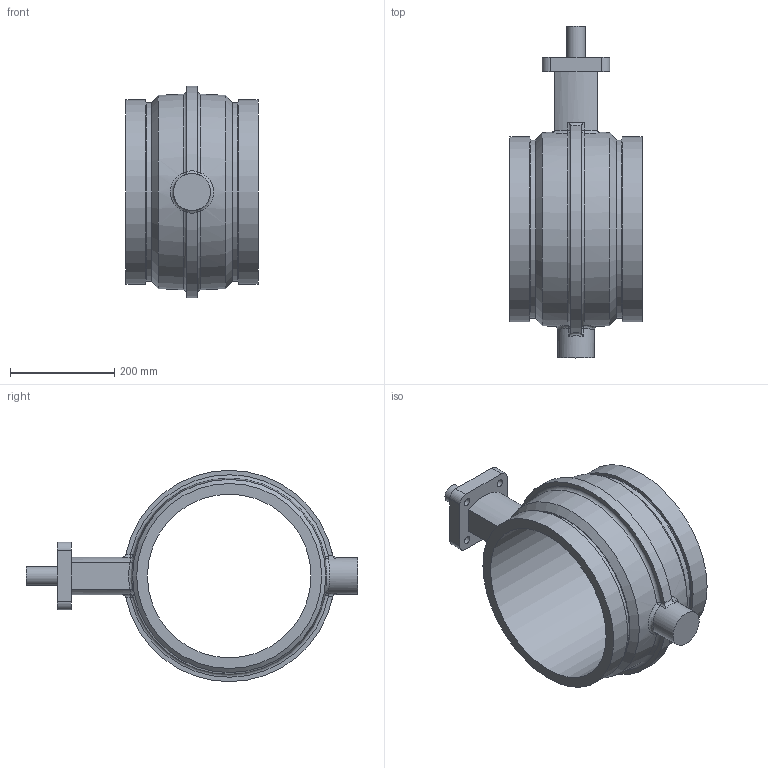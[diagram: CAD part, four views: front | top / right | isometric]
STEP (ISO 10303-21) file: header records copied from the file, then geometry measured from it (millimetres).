
FILE_DESCRIPTION(/* description */ ('VIC AGS VALVE BUTTERFLY VIC-300 MS BARE SERIES W761 (AGS)'),/* implementation_level */ '2;1');
FILE_NAME(/* name */ 'C:\Files for Export\W761\STEP\Victaulic_IPS-AGS_Vlv Btfl Vic-300 MS Bare_Series W761 (AGS)\Victaulic_IPS-AGS_Vlv Btfl Vic-300 MS Bare_Series W761 (AGS)_14 (350).stp',/* time_stamp */ '2024-08-27T14:18:28+02:00',/* author */ ('jheald'),/* organization */ ('Victaulic'),/* preprocessor_version */ 'ST-DEVELOPER v18.1',/* originating_system */ 'Autodesk Inventor 2020',/* authorisation */ '');
FILE_SCHEMA (('AUTOMOTIVE_DESIGN { 1 0 10303 214 3 1 1 }'));
Length unit declared in the file: inch
Products named in the file (1): W761-14.0
Bounding box: 254 x 638.3 x 406.4 mm (x, y, z)
Volume: 8488553.8 mm3; surface area: 730820.9 mm2
Topology: 1 solids, 1 shells, 77 faces, 210 edges, 139 vertices
Faces by surface type: cylinder 27, plane 18, torus 10, bspline 10, sphere 8, cone 4
Full cylindrical faces by diameter (mm): 14.732 x4, 35.052 x1, 71.12 x1, 314.579 x1, 342.9 x2, 355.6 x2
Entity records: 3137 total; most frequent: CARTESIAN_POINT 1084, ORIENTED_EDGE 420, DIRECTION 393, EDGE_CURVE 210, AXIS2_PLACEMENT_3D 170, VERTEX_POINT 139, CIRCLE 102, EDGE_LOOP 91
